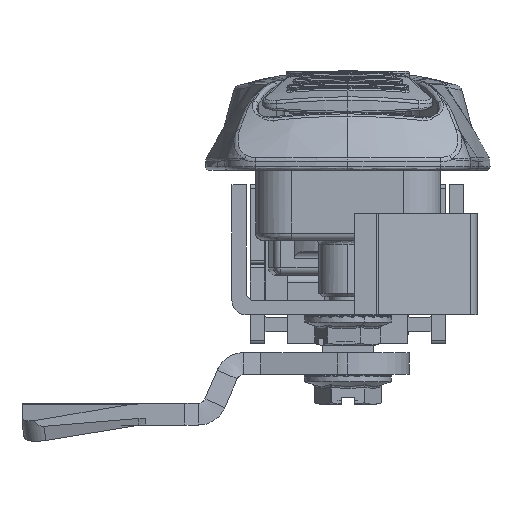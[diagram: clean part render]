
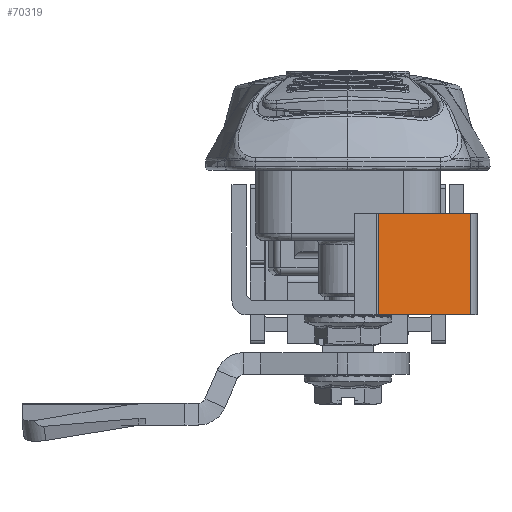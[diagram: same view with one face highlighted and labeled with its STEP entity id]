
A CAD part, left-side view. The second image highlights one B-rep face of the part: STEP entity #70319.
In plain terms, the highlighted planar face has unit normal (-0.766, -0.643, 0) as drawn and (0.766, 0.643, 0) by its records, which use the part's own axes.
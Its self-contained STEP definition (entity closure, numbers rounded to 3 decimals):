
#2260 = AXIS2_PLACEMENT_3D ( 'NONE', #33778, #122224, #114241 ) ;
#4122 = ORIENTED_EDGE ( 'NONE', *, *, #124965, .F. ) ;
#5717 = CARTESIAN_POINT ( 'NONE',  ( 170.76, 3.286, -7. ) ) ;
#7036 = CARTESIAN_POINT ( 'NONE',  ( 170.76, 3.286, 7. ) ) ;
#11875 = EDGE_CURVE ( 'NONE', #40351, #21572, #77924, .T. ) ;
#14332 = LINE ( 'NONE', #5717, #117694 ) ;
#17184 = CARTESIAN_POINT ( 'NONE',  ( 170.76, 3.286, -7. ) ) ;
#19734 = ORIENTED_EDGE ( 'NONE', *, *, #94648, .T. ) ;
#20786 = DIRECTION ( 'NONE',  ( 0., 0., -1. ) ) ;
#21572 = VERTEX_POINT ( 'NONE', #98729 ) ;
#23412 = VERTEX_POINT ( 'NONE', #49630 ) ;
#29384 = CARTESIAN_POINT ( 'NONE',  ( 160.092, 16., 7.373 ) ) ;
#31347 = LINE ( 'NONE', #29384, #75828 ) ;
#33778 = CARTESIAN_POINT ( 'NONE',  ( 171., 3., -7. ) ) ;
#36987 = VECTOR ( 'NONE', #77594, 1000. ) ;
#40351 = VERTEX_POINT ( 'NONE', #7036 ) ;
#47859 = VECTOR ( 'NONE', #118160, 1000. ) ;
#49591 = EDGE_CURVE ( 'NONE', #40351, #72884, #117162, .T. ) ;
#49630 = CARTESIAN_POINT ( 'NONE',  ( 160.092, 16., -7. ) ) ;
#51586 = FACE_OUTER_BOUND ( 'NONE', #66474, .T. ) ;
#57757 = CARTESIAN_POINT ( 'NONE',  ( 170.76, 3.286, 7. ) ) ;
#64149 = ORIENTED_EDGE ( 'NONE', *, *, #11875, .T. ) ;
#66474 = EDGE_LOOP ( 'NONE', ( #85082, #64149, #19734, #4122 ) ) ;
#70319 = ADVANCED_FACE ( 'NONE', ( #51586 ), #113596, .T. ) ;
#72884 = VERTEX_POINT ( 'NONE', #104766 ) ;
#75828 = VECTOR ( 'NONE', #20786, 1000. ) ;
#77594 = DIRECTION ( 'NONE',  ( -0.643, 0.766, 0. ) ) ;
#77924 = LINE ( 'NONE', #17184, #47859 ) ;
#85082 = ORIENTED_EDGE ( 'NONE', *, *, #49591, .F. ) ;
#94648 = EDGE_CURVE ( 'NONE', #21572, #23412, #14332, .T. ) ;
#98729 = CARTESIAN_POINT ( 'NONE',  ( 170.76, 3.286, -7. ) ) ;
#104766 = CARTESIAN_POINT ( 'NONE',  ( 160.092, 16., 7. ) ) ;
#105376 = DIRECTION ( 'NONE',  ( -0.643, 0.766, 0. ) ) ;
#113596 = PLANE ( 'NONE',  #2260 ) ;
#114241 = DIRECTION ( 'NONE',  ( -0.643, 0.766, 0. ) ) ;
#117162 = LINE ( 'NONE', #57757, #36987 ) ;
#117694 = VECTOR ( 'NONE', #105376, 1000. ) ;
#118160 = DIRECTION ( 'NONE',  ( 0., 0., -1. ) ) ;
#122224 = DIRECTION ( 'NONE',  ( 0.766, 0.643, 0. ) ) ;
#124965 = EDGE_CURVE ( 'NONE', #72884, #23412, #31347, .T. ) ;
